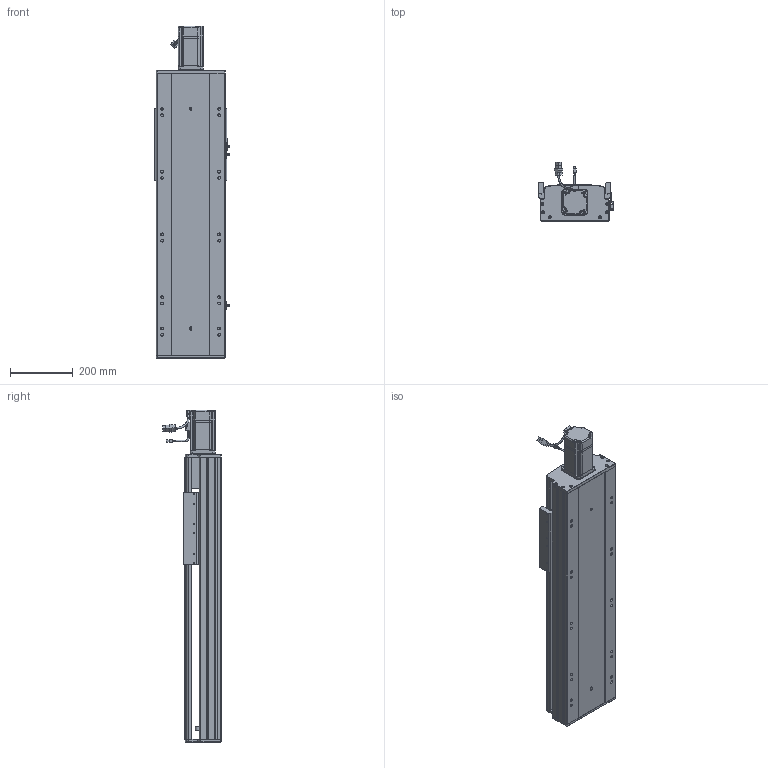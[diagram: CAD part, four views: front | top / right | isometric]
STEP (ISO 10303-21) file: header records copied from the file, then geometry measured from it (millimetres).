
FILE_DESCRIPTION (( 'STEP AP203' ), '1' );
FILE_NAME ('RY220-L2525-300-MK.SLDASM_500.step', '2022-07-04T02:57:25', ( '' ), ( '' ), 'SwSTEP 2.0', 'SolidWorks 2016', '' );
FILE_SCHEMA (( 'CONFIG_CONTROL_DESIGN' ));
Length unit declared in the file: millimetre
Products named in the file (12): 怢湛750W_ECMA-CX0807ES; RY220ヶ裔啣; RY220菁釱MK-300_500; 覜茼ん672; RY220-L2525-300-MK.SLDASM_500; RY220半封闭25-32螺母铝滑块; RY220-俋离672覜茼んえ; RY220-300-奻裔啣-MK_500; RY220綴裔啣; RY220电机支撑座FK20（PCD90M6）; 滅袉蝶18-15; 滅袉蝶18-12
Assembly tree (15 placements, depth 2):
  RY220-L2525-300-MK.SLDASM_500
    RY220菁釱MK-300_500
    RY220电机支撑座FK20（PCD90M6）
    怢湛750W_ECMA-CX0807ES
    滅袉蝶18-12  x2
    RY220ヶ裔啣
    RY220綴裔啣
    覜茼ん672  x3
    RY220半封闭25-32螺母铝滑块
    RY220-300-奻裔啣-MK_500
    RY220-俋离672覜茼んえ
    滅袉蝶18-15  x2
Bounding box: 238.7 x 187.27 x 1058.3 mm (x, y, z)
Volume: 9134610.6 mm3; surface area: 2378030.1 mm2
Topology: 16 solids, 16 shells, 2122 faces, 5878 edges, 3728 vertices
Faces by surface type: cylinder 936, plane 907, cone 217, bspline 36, sphere 16, torus 10
Entity records: 69698 total; most frequent: CARTESIAN_POINT 19917, ORIENTED_EDGE 10360, DIRECTION 9715, EDGE_CURVE 5180, AXIS2_PLACEMENT_3D 3391, VERTEX_POINT 3384, LINE 2933, VECTOR 2933
